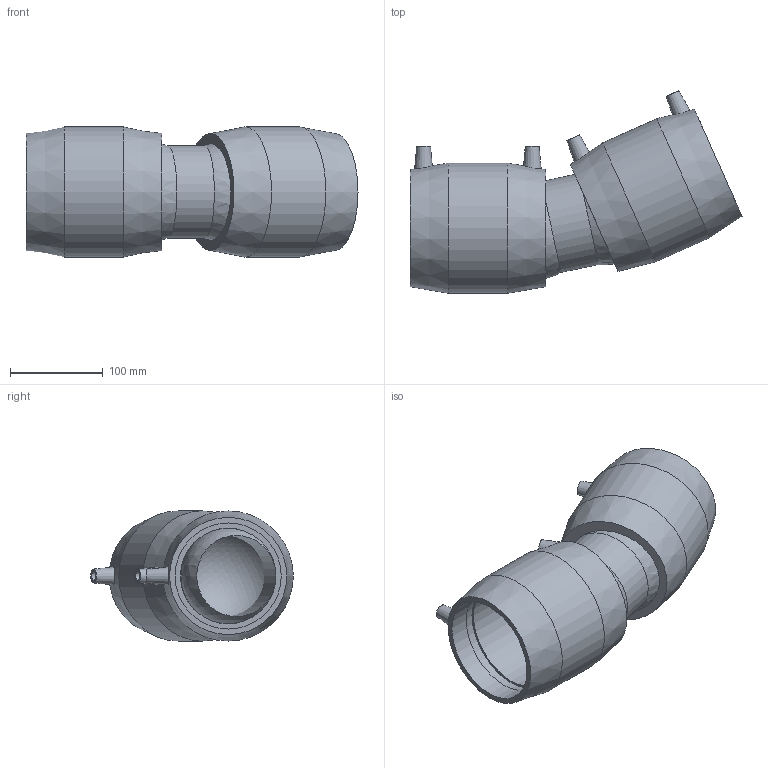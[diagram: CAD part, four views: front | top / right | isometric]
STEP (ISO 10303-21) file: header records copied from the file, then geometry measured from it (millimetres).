
FILE_DESCRIPTION(/* description */ ('PLASSON ADJUSTABLE ELBOW ASTM 4'''''),/* implementation_level */ '2;1');
FILE_NAME(/* name */ 'C:\Dropbox\KIMPROJECTS-Inventor 2019\99-16-3568-Processing Inch\ASTM ElectroFusion 2021\5947B\5947B003040.ipt.stp',/* time_stamp */ '2021-08-30T09:53:01+03:00',/* author */ ('KIM'),/* organization */ (''),/* preprocessor_version */ 'ST-DEVELOPER v17.2',/* originating_system */ 'Autodesk Inventor 2019',/* authorisation */ '');
FILE_SCHEMA (('AUTOMOTIVE_DESIGN { 1 0 10303 214 3 1 1 }'));
Length unit declared in the file: inch
Products named in the file (1): 5947B003040
Bounding box: 357.02 x 217.82 x 139.95 mm (x, y, z)
Volume: 1775645.8 mm3; surface area: 331854 mm2
Topology: 1 solids, 1 shells, 51 faces, 112 edges, 80 vertices
Faces by surface type: plane 20, cylinder 18, cone 10, sphere 3
Full cylindrical faces by diameter (mm): 4 x4, 10 x4, 87.149 x1, 99.94 x1, 102.69 x2, 114.1 x4, 139.954 x2
Entity records: 1877 total; most frequent: CARTESIAN_POINT 633, DIRECTION 274, ORIENTED_EDGE 224, AXIS2_PLACEMENT_3D 123, EDGE_CURVE 112, VERTEX_POINT 80, EDGE_LOOP 72, CIRCLE 72
